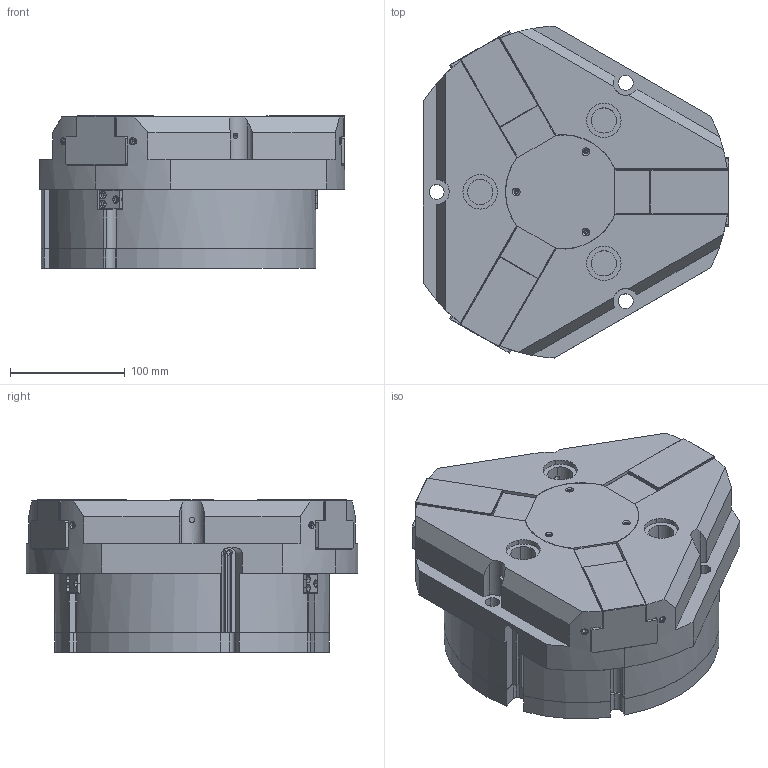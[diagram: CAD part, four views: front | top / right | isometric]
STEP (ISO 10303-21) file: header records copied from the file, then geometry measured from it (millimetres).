
FILE_DESCRIPTION (( 'STEP AP214' ), '1' );
FILE_NAME ('FCT 240A-1.STEP', '2021-09-17T10:19:01', ( 'DEEP' ), ( 'Microsoft' ), 'SwSTEP 2.0', 'SolidWorks 2016', '' );
FILE_SCHEMA (( 'AUTOMOTIVE_DESIGN' ));
Length unit declared in the file: millimetre
Products named in the file (17): FCT240A-1-01-008A; FCT240A-1-01-002A; FCT240A-1-01-004A; FCT240A-1-01-001A; FPT-000-1-01-003A; FCT240A-1-01-007A; FCT 240A-1
Assembly tree (10 placements, depth 2):
  FPT-000-1-01-003A
  FPT-000-1-01-003A
  FPT-000-1-01-003A
  FCT240A-1-01-007A
  FCT240A-1-01-008A
Bounding box: 266.9 x 289.64 x 133.1 mm (x, y, z)
Volume: 6295019.1 mm3; surface area: 511821.1 mm2
Topology: 10 solids, 10 shells, 725 faces, 1949 edges, 1259 vertices
Faces by surface type: plane 386, cylinder 289, cone 48, torus 2
Entity records: 20283 total; most frequent: CARTESIAN_POINT 4577, ORIENTED_EDGE 3098, DIRECTION 3021, EDGE_CURVE 1549, AXIS2_PLACEMENT_3D 1027, VERTEX_POINT 1023, VECTOR 967, LINE 967
